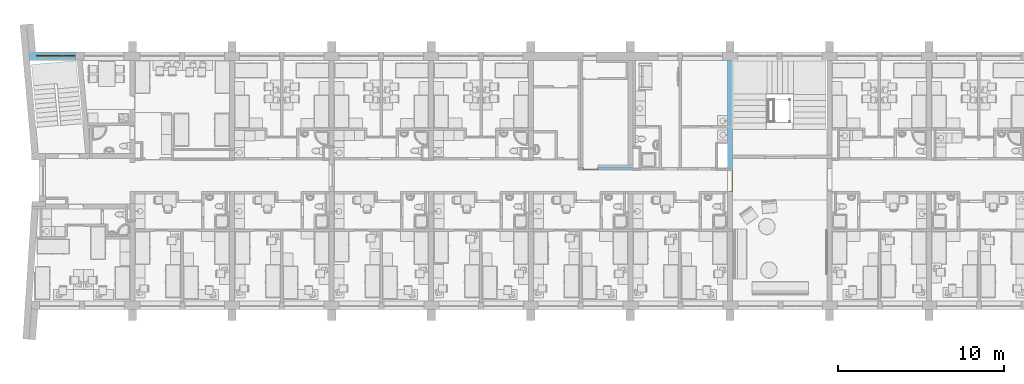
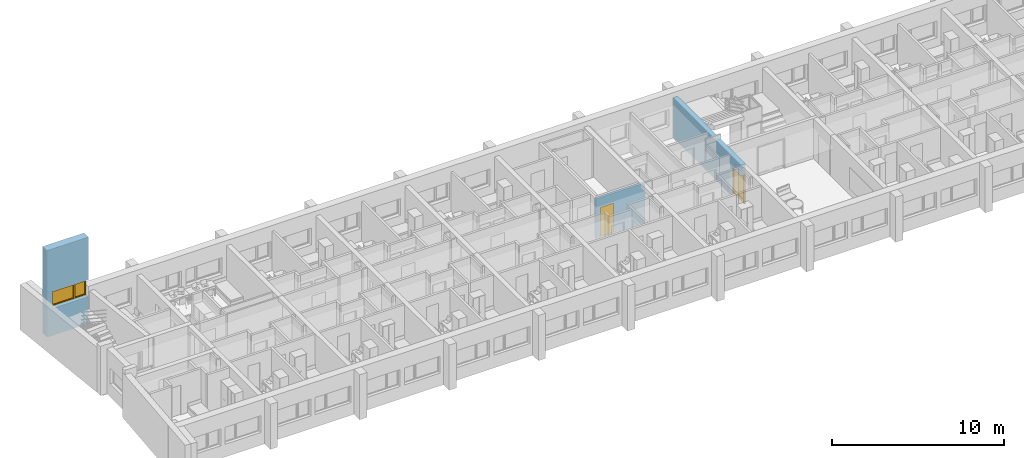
# One storey, part 23 of 165: 2 doors, 1 window, 3 openings, plus 3 elements that do not belong to this part.
"""IFC2X3 building model written with IfcOpenShell, lengths in millimetres."""

from ifc_helpers import new_model, entity, si_unit, converted_unit, money_unit, direction, frame, origin_with_axes, place, context, subcontext, project, spatial, polyline, outline, extrude, open_shell, faceted_brep, surface_model, material, material_list, layer, layer_set, layer_usage, type_object, element, fill, save


model = new_model("IFC2X3")

# Units and contexts
model_context = context("Model", 3, precision=1e-05, world=origin_with_axes(), true_north=direction((0.0, 1.0)))
body_context = subcontext(model_context, "Body", "Model", "MODEL_VIEW")
ifc_project = project(units=[si_unit("LENGTHUNIT", "METRE", prefix="MILLI"), si_unit("AREAUNIT", "SQUARE_METRE"), si_unit("VOLUMEUNIT", "CUBIC_METRE"), converted_unit("PLANEANGLEUNIT", "DEGREE", entity("IfcPlaneAngleMeasure", 0.0174532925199), si_unit("PLANEANGLEUNIT", "RADIAN"), dimensions=[0, 0, 0, 0, 0, 0, 0]), si_unit("SOLIDANGLEUNIT", "STERADIAN"), money_unit("USD"), converted_unit("TIMEUNIT", "Year", entity("IfcTimeMeasure", 31556926.0), si_unit("TIMEUNIT", "SECOND"), dimensions=[0, 0, 0, 0, 0, 0, 0]), si_unit("MASSUNIT", "GRAM"), si_unit("THERMODYNAMICTEMPERATUREUNIT", "DEGREE_CELSIUS"), si_unit("LUMINOUSINTENSITYUNIT", "LUMEN")], contexts=[model_context])

# Site, building, storey
site_placement = place(None, origin_with_axes())
site = spatial("IfcSite", under=ifc_project, at=site_placement, Name="Site", CompositionType="ELEMENT")
building_placement = place(site_placement, origin_with_axes())
building = spatial("IfcBuilding", under=site, at=building_placement, Name="Building", CompositionType="ELEMENT")
storey_placement = place(building_placement, frame((0.0, 0.0, 6300.0), z_axis=(0.0, 0.0, 1.0), x_axis=(1.0, 0.0, 0.0)))
storey = spatial("IfcBuildingStorey", under=building, at=storey_placement, Name="4KORRUS", CompositionType="ELEMENT", Elevation=6300.0)

# Wall, opening, window
ifc_material_1 = material(Name="Olemasolevad seinad tellis, uus viimistlus")
ifc_layer_1 = layer(ifc_material_1, 500.0, ventilated="UNKNOWN")
ifc_layer_set_1 = layer_set([ifc_layer_1], Name="Olemasolevad seinad tellis, uus viimistlus 500")
ifc_layer_usage_1 = layer_usage(ifc_layer_set_1, "AXIS2", "POSITIVE", -100.0)
wall_type_1 = type_object("IfcWallType", Name="Olemasolevad seinad tellis, uus viimistlus 500", PredefinedType="NOTDEFINED")
wall_1_placement = place(storey_placement, frame((-54343.0262419, -5039.6041088, 550.0), z_axis=(0.0, 0.0, 1.0), x_axis=(1.0, 0.0, 0.0)))
wall_1 = element("IfcWallStandardCase", 1, at=wall_1_placement, inside=storey, type_object=wall_type_1, material=ifc_layer_usage_1, Name="VS1", ObjectType="VS1", context=body_context, shape_type="SweptSolid", body=[
    extrude(outline(polyline([(0.0, -100.0), (2773.68742949, -100.0), (2773.68742949, 400.0), (0.0, 400.0), (0.0, -100.0)])), origin_with_axes(), (0.0, 0.0, 1.0), 6150.0),
])
opening_1_placement = place(wall_1_placement, frame((1573.68742949, 0.0, 1910.0), z_axis=(0.0, 0.0, 1.0), x_axis=(1.0, 0.0, 0.0)))
opening_1 = element("IfcOpeningElement", 2, at=opening_1_placement, cuts=wall_1, Name="A2", context=body_context, shape_type="SweptSolid", body=[
    extrude(outline(polyline([(-1200.0, 1200.0), (-1200.0, 0.0), (1200.0, 0.0), (1200.0, 1200.0), (-1200.0, 1200.0)])), frame((0.0, 200.0, 0.0), z_axis=(0.0, -1.0, 0.0), x_axis=(1.0, 0.0, 0.0)), (0.0, 0.0, 1.0), 800.0),
    extrude(outline(polyline([(-1200.0, 0.0), (-1200.0, -1200.0), (1200.0, -1200.0), (1200.0, 0.0), (-1200.0, 0.0)])), frame((0.0, 200.0, 0.0), z_axis=(0.0, 1.0, 0.0), x_axis=(1.0, 0.0, 0.0)), (0.0, 0.0, 1.0), 700.0),
])
ifc_material_2 = material(Name="Background")
ifc_material_list = material_list([ifc_material_2])
window_style = type_object("IfcWindowStyle", Name="Double Window 19", ConstructionType="NOTDEFINED", OperationType="DOUBLE_PANEL_VERTICAL", ParameterTakesPrecedence=False, Sizeable=False)
window_placement = place(opening_1_placement, frame((-1200.0, 0.0, 0.0), z_axis=(0.0, 0.0, 1.0), x_axis=(1.0, 0.0, 0.0)))
window = element("IfcWindow", 3, at=window_placement, inside=storey, type_object=window_style, material=ifc_material_list, Name="A2", ObjectType="A2", OverallHeight=1200.0, OverallWidth=2400.0, context=body_context, shape_type="SurfaceModel", body=[
    faceted_brep([(25.0, 200.0, 1150.0), (0.0, 200.0, 1150.0), (0.0, 150.0, 1150.0), (50.0, 150.0, 1150.0), (50.0, 175.0, 1150.0), (25.0, 175.0, 1150.0), (25.0, 200.0, 50.0), (0.0, 200.0, 50.0), (0.0, 150.0, 50.0), (50.0, 150.0, 50.0), (50.0, 175.0, 50.0), (25.0, 175.0, 50.0)], [[[0, 1, 2, 3, 4, 5]], [[6, 7, 1, 0]], [[1, 7, 8, 2]], [[2, 8, 9, 3]], [[4, 3, 9, 10]], [[10, 11, 5, 4]], [[5, 11, 6, 0]], [[11, 10, 9, 8, 7, 6]]]),
    faceted_brep([(2350.0, 175.0, 1150.0), (2350.0, 150.0, 1150.0), (2400.0, 150.0, 1150.0), (2400.0, 200.0, 1150.0), (2375.0, 200.0, 1150.0), (2375.0, 175.0, 1150.0), (2350.0, 175.0, 50.0), (2350.0, 150.0, 50.0), (2400.0, 150.0, 50.0), (2400.0, 200.0, 50.0), (2375.0, 200.0, 50.0), (2375.0, 175.0, 50.0)], [[[0, 1, 2, 3, 4, 5]], [[6, 7, 1, 0]], [[8, 2, 1, 7]], [[9, 3, 2, 8]], [[4, 3, 9, 10]], [[10, 11, 5, 4]], [[5, 11, 6, 0]], [[11, 10, 9, 8, 7, 6]]]),
    faceted_brep([(1550.0, 175.0, 1150.0), (1550.0, 150.0, 1150.0), (1650.0, 150.0, 1150.0), (1650.0, 175.0, 1150.0), (1625.0, 175.0, 1150.0), (1625.0, 200.0, 1150.0), (1575.0, 200.0, 1150.0), (1575.0, 175.0, 1150.0), (1550.0, 175.0, 50.0), (1550.0, 150.0, 50.0), (1650.0, 150.0, 50.0), (1650.0, 175.0, 50.0), (1625.0, 175.0, 50.0), (1625.0, 200.0, 50.0), (1575.0, 200.0, 50.0), (1575.0, 175.0, 50.0)], [[[0, 1, 2, 3, 4, 5, 6, 7]], [[8, 9, 1, 0]], [[10, 2, 1, 9]], [[3, 2, 10, 11]], [[11, 12, 4, 3]], [[4, 12, 13, 5]], [[6, 5, 13, 14]], [[14, 15, 7, 6]], [[7, 15, 8, 0]], [[15, 14, 13, 12, 11, 10, 9, 8]]]),
    faceted_brep([(1550.0, 175.0, 50.0), (1550.0, 150.0, 50.0), (1650.0, 150.0, 50.0), (1650.0, 175.0, 50.0), (1625.0, 175.0, 50.0), (1625.0, 200.0, 50.0), (1575.0, 200.0, 50.0), (1575.0, 175.0, 50.0), (50.0, 175.0, 50.0), (50.0, 150.0, 50.0), (0.0, 150.0, 50.0), (0.0, 150.0, 0.0), (2400.0, 150.0, 0.0), (2400.0, 150.0, 50.0), (2350.0, 150.0, 50.0), (2350.0, 175.0, 50.0), (2375.0, 175.0, 50.0), (2375.0, 175.0, 25.0), (1625.0, 175.0, 25.0), (1625.0, 200.0, 25.0), (25.0, 200.0, 25.0), (1575.0, 200.0, 25.0), (2375.0, 200.0, 25.0), (2375.0, 200.0, 50.0), (2400.0, 200.0, 50.0), (2400.0, 200.0, 0.0), (0.0, 200.0, 0.0), (0.0, 200.0, 50.0), (25.0, 200.0, 50.0), (1575.0, 175.0, 25.0), (25.0, 175.0, 25.0), (25.0, 175.0, 50.0)], [[[0, 1, 2, 3, 4, 5, 6, 7]], [[8, 9, 1, 0]], [[10, 11, 12, 13, 14, 2, 1, 9]], [[3, 2, 14, 15]], [[16, 17, 18, 4, 3, 15]], [[4, 18, 19, 5]], [[20, 21, 6, 5, 19, 22, 23, 24, 25, 26, 27, 28]], [[21, 29, 7, 6]], [[7, 29, 30, 31, 8, 0]], [[31, 28, 27, 10, 9, 8]], [[27, 26, 11, 10]], [[26, 25, 12, 11]], [[25, 24, 13, 12]], [[15, 14, 13, 24, 23, 16]], [[22, 17, 16, 23]], [[19, 18, 17, 22]], [[20, 30, 29, 21]], [[31, 30, 20, 28]]]),
    faceted_brep([(25.0, 200.0, 1150.0), (0.0, 200.0, 1150.0), (0.0, 200.0, 1200.0), (2400.0, 200.0, 1200.0), (2400.0, 200.0, 1150.0), (2375.0, 200.0, 1150.0), (2375.0, 200.0, 1175.0), (1625.0, 200.0, 1175.0), (1625.0, 200.0, 1150.0), (1575.0, 200.0, 1150.0), (1575.0, 200.0, 1175.0), (25.0, 200.0, 1175.0), (25.0, 175.0, 1150.0), (50.0, 175.0, 1150.0), (50.0, 150.0, 1150.0), (0.0, 150.0, 1150.0), (0.0, 150.0, 1200.0), (2400.0, 150.0, 1200.0), (2400.0, 150.0, 1150.0), (2375.0, 175.0, 1150.0), (2350.0, 150.0, 1150.0), (2350.0, 175.0, 1150.0), (2375.0, 175.0, 1175.0), (1625.0, 175.0, 1175.0), (1625.0, 175.0, 1150.0), (1575.0, 175.0, 1150.0), (1650.0, 175.0, 1150.0), (1650.0, 150.0, 1150.0), (1550.0, 150.0, 1150.0), (1550.0, 175.0, 1150.0), (1575.0, 175.0, 1175.0), (25.0, 175.0, 1175.0)], [[[0, 1, 2, 3, 4, 5, 6, 7, 8, 9, 10, 11]], [[12, 13, 14, 15, 1, 0]], [[2, 1, 15, 16]], [[3, 2, 16, 17]], [[4, 3, 17, 18]], [[19, 5, 4, 18, 20, 21]], [[5, 19, 22, 6]], [[6, 22, 23, 7]], [[7, 23, 24, 8]], [[25, 9, 8, 24, 26, 27, 28, 29]], [[9, 25, 30, 10]], [[10, 30, 31, 11]], [[11, 31, 12, 0]], [[29, 13, 12, 31, 30, 25]], [[29, 28, 14, 13]], [[27, 20, 18, 17, 16, 15, 14, 28]], [[21, 20, 27, 26]], [[21, 26, 24, 23, 22, 19]]]),
    faceted_brep([(75.0, 175.0, 1125.0), (75.0, 225.0, 1125.0), (25.0, 225.0, 1125.0), (25.0, 175.0, 1125.0), (75.0, 175.0, 75.0), (75.0, 225.0, 75.0), (25.0, 225.0, 75.0), (25.0, 175.0, 75.0)], [[[0, 1, 2, 3]], [[4, 5, 1, 0]], [[1, 5, 6, 2]], [[3, 2, 6, 7]], [[0, 3, 7, 4]], [[7, 6, 5, 4]]]),
    faceted_brep([(1525.0, 175.0, 75.0), (1525.0, 225.0, 75.0), (1575.0, 225.0, 75.0), (1575.0, 175.0, 75.0), (1525.0, 175.0, 1125.0), (1525.0, 225.0, 1125.0), (1575.0, 225.0, 1125.0), (1575.0, 175.0, 1125.0)], [[[0, 1, 2, 3]], [[4, 5, 1, 0]], [[1, 5, 6, 2]], [[3, 2, 6, 7]], [[0, 3, 7, 4]], [[7, 6, 5, 4]]]),
    faceted_brep([(1575.0, 175.0, 25.0), (1575.0, 225.0, 25.0), (1575.0, 225.0, 75.0), (1575.0, 175.0, 75.0), (25.0, 175.0, 25.0), (25.0, 225.0, 25.0), (25.0, 225.0, 75.0), (75.0, 225.0, 75.0), (1525.0, 225.0, 75.0), (1525.0, 175.0, 75.0), (75.0, 175.0, 75.0), (25.0, 175.0, 75.0)], [[[0, 1, 2, 3]], [[4, 5, 1, 0]], [[1, 5, 6, 7, 8, 2]], [[3, 2, 8, 9]], [[0, 3, 9, 10, 11, 4]], [[11, 6, 5, 4]], [[10, 7, 6, 11]], [[9, 8, 7, 10]]]),
    faceted_brep([(25.0, 175.0, 1175.0), (25.0, 225.0, 1175.0), (25.0, 225.0, 1125.0), (25.0, 175.0, 1125.0), (1575.0, 175.0, 1175.0), (1575.0, 225.0, 1175.0), (1575.0, 225.0, 1125.0), (1525.0, 225.0, 1125.0), (75.0, 225.0, 1125.0), (75.0, 175.0, 1125.0), (1525.0, 175.0, 1125.0), (1575.0, 175.0, 1125.0)], [[[0, 1, 2, 3]], [[4, 5, 1, 0]], [[1, 5, 6, 7, 8, 2]], [[3, 2, 8, 9]], [[0, 3, 9, 10, 11, 4]], [[11, 6, 5, 4]], [[10, 7, 6, 11]], [[9, 8, 7, 10]]]),
    surface_model("IfcShellBasedSurfaceModel", [(75.0, 190.0, 75.0), (1525.0, 190.0, 75.0), (1525.0, 190.0, 1125.0), (75.0, 190.0, 1125.0)], [open_shell([[[0, 1, 2, 3]]])]),
    surface_model("IfcShellBasedSurfaceModel", [(75.0, 210.0, 75.0), (75.0, 210.0, 1125.0), (1525.0, 210.0, 1125.0), (1525.0, 210.0, 75.0)], [open_shell([[[0, 1, 2, 3]]])]),
    faceted_brep([(1675.0, 175.0, 1125.0), (1675.0, 225.0, 1125.0), (1625.0, 225.0, 1125.0), (1625.0, 175.0, 1125.0), (1675.0, 175.0, 75.0), (1675.0, 225.0, 75.0), (1625.0, 225.0, 75.0), (1625.0, 175.0, 75.0)], [[[0, 1, 2, 3]], [[4, 5, 1, 0]], [[1, 5, 6, 2]], [[3, 2, 6, 7]], [[0, 3, 7, 4]], [[7, 6, 5, 4]]]),
    faceted_brep([(2325.0, 175.0, 75.0), (2325.0, 225.0, 75.0), (2375.0, 225.0, 75.0), (2375.0, 175.0, 75.0), (2325.0, 175.0, 1125.0), (2325.0, 225.0, 1125.0), (2375.0, 225.0, 1125.0), (2375.0, 175.0, 1125.0)], [[[0, 1, 2, 3]], [[4, 5, 1, 0]], [[1, 5, 6, 2]], [[3, 2, 6, 7]], [[0, 3, 7, 4]], [[7, 6, 5, 4]]]),
    faceted_brep([(2375.0, 175.0, 25.0), (2375.0, 225.0, 25.0), (2375.0, 225.0, 75.0), (2375.0, 175.0, 75.0), (1625.0, 175.0, 25.0), (1625.0, 225.0, 25.0), (1625.0, 225.0, 75.0), (1675.0, 225.0, 75.0), (2325.0, 225.0, 75.0), (2325.0, 175.0, 75.0), (1675.0, 175.0, 75.0), (1625.0, 175.0, 75.0)], [[[0, 1, 2, 3]], [[4, 5, 1, 0]], [[1, 5, 6, 7, 8, 2]], [[3, 2, 8, 9]], [[0, 3, 9, 10, 11, 4]], [[11, 6, 5, 4]], [[10, 7, 6, 11]], [[9, 8, 7, 10]]]),
    faceted_brep([(1625.0, 175.0, 1175.0), (1625.0, 225.0, 1175.0), (1625.0, 225.0, 1125.0), (1625.0, 175.0, 1125.0), (2375.0, 175.0, 1175.0), (2375.0, 225.0, 1175.0), (2375.0, 225.0, 1125.0), (2325.0, 225.0, 1125.0), (1675.0, 225.0, 1125.0), (1675.0, 175.0, 1125.0), (2325.0, 175.0, 1125.0), (2375.0, 175.0, 1125.0)], [[[0, 1, 2, 3]], [[4, 5, 1, 0]], [[1, 5, 6, 7, 8, 2]], [[3, 2, 8, 9]], [[0, 3, 9, 10, 11, 4]], [[11, 6, 5, 4]], [[10, 7, 6, 11]], [[9, 8, 7, 10]]]),
    surface_model("IfcShellBasedSurfaceModel", [(1675.0, 190.0, 75.0), (2325.0, 190.0, 75.0), (2325.0, 190.0, 1125.0), (1675.0, 190.0, 1125.0)], [open_shell([[[0, 1, 2, 3]]])]),
    surface_model("IfcShellBasedSurfaceModel", [(1675.0, 210.0, 75.0), (1675.0, 210.0, 1125.0), (2325.0, 210.0, 1125.0), (2325.0, 210.0, 75.0)], [open_shell([[[0, 1, 2, 3]]])]),
])
fill(opening_1, window)

# Wall, opening, door
ifc_material_3 = material(Name="UmbKipsplaat")
ifc_layer_2 = layer(ifc_material_3, 13.0, ventilated="UNKNOWN")
ifc_layer_3 = layer(ifc_material_3, 13.0, ventilated="UNKNOWN")
ifc_material_4 = material(Name="SOOJUSTUS MINERAALVILL")
ifc_layer_4 = layer(ifc_material_4, 98.0, ventilated="UNKNOWN")
ifc_layer_5 = layer(ifc_material_3, 13.0, ventilated="UNKNOWN")
ifc_layer_6 = layer(ifc_material_3, 13.0, ventilated="UNKNOWN")
ifc_layer_set_2 = layer_set([ifc_layer_2, ifc_layer_3, ifc_layer_4, ifc_layer_5, ifc_layer_6], Name="kipssein150")
ifc_layer_usage_2 = layer_usage(ifc_layer_set_2, "AXIS2", "POSITIVE", 0.0)
wall_type_2 = type_object("IfcWallType", Name="kipssein150 150", PredefinedType="NOTDEFINED")
wall_2_placement = place(storey_placement, frame((-21293.7997794, -11739.1092262, 0.0), z_axis=(0.0, 0.0, 1.0), x_axis=(1.0, 0.0, 0.0)))
wall_2 = element("IfcWallStandardCase", 4, at=wall_2_placement, inside=storey, type_object=wall_type_2, material=ifc_layer_usage_2, Name="SS1", ObjectType="SS1", context=body_context, shape_type="SweptSolid", body=[
    extrude(outline(polyline([(0.0, 0.0), (3303.5030761, 0.0), (3303.5030761, 150.0), (0.0, 150.0), (0.0, 0.0)])), origin_with_axes(), (0.0, 0.0, 1.0), 2800.0),
])
opening_2_placement = place(wall_2_placement, frame((750.0, 0.0, 0.0), z_axis=(0.0, 0.0, 1.0), x_axis=(1.0, 0.0, 0.0)))
opening_2 = element("IfcOpeningElement", 5, at=opening_2_placement, cuts=wall_2, Name="SU2-1", context=body_context, shape_type="SweptSolid", body=[
    extrude(outline(polyline([(-450.0, 0.0), (450.0, 0.0), (450.0, 2100.0), (-450.0, 2100.0), (-450.0, 0.0)])), frame((0.0, -150.0, 0.0), z_axis=(0.0, 1.0, 0.0), x_axis=(-1.0, 0.0, 0.0)), (0.0, 0.0, 1.0), 450.0),
])
door_style_1 = type_object("IfcDoorStyle", Name="Door 19", ConstructionType="NOTDEFINED", OperationType="SINGLE_SWING_RIGHT", ParameterTakesPrecedence=False, Sizeable=False)
door_1_placement = place(opening_2_placement, frame((450.0, 0.0, 0.0), z_axis=(0.0, 0.0, 1.0), x_axis=(-1.0, 0.0, 0.0)))
door_1 = element("IfcDoor", 6, at=door_1_placement, inside=storey, type_object=door_style_1, material=ifc_material_list, Name="SU2-1", ObjectType="Abiruumi uks", OverallHeight=2100.0, OverallWidth=900.0, context=body_context, shape_type="Brep", body=[
    faceted_brep([(40.0, -75.0, 0.0), (40.0, -75.0, 2060.0), (40.0, -150.0, 2060.0), (40.0, -150.0, 0.0), (28.0, -75.0, 2060.0), (28.0, -75.0, 0.0), (28.0, -35.0, 2060.0), (0.0, -35.0, 2060.0), (0.0, -150.0, 2060.0), (0.0, -150.0, 0.0), (0.0, -35.0, 0.0), (28.0, -35.0, 0.0)], [[[0, 1, 2, 3]], [[4, 1, 0, 5]], [[4, 6, 7, 8, 2, 1]], [[2, 8, 9, 3]], [[5, 0, 3, 9, 10, 11]], [[6, 4, 5, 11]], [[6, 11, 10, 7]], [[9, 8, 7, 10]]]),
    faceted_brep([(872.0, -75.0, 2060.0), (860.0, -75.0, 2060.0), (860.0, -150.0, 2060.0), (900.0, -150.0, 2060.0), (900.0, -35.0, 2060.0), (872.0, -35.0, 2060.0), (872.0, -75.0, 0.0), (860.0, -75.0, 0.0), (860.0, -150.0, 0.0), (900.0, -150.0, 0.0), (900.0, -35.0, 0.0), (872.0, -35.0, 0.0)], [[[0, 1, 2, 3, 4, 5]], [[1, 0, 6, 7]], [[1, 7, 8, 2]], [[2, 8, 9, 3]], [[3, 9, 10, 4]], [[11, 5, 4, 10]], [[0, 5, 11, 6]], [[6, 11, 10, 9, 8, 7]]]),
    faceted_brep([(28.0, -35.0, 2072.0), (28.0, -35.0, 2060.0), (0.0, -35.0, 2060.0), (0.0, -35.0, 2100.0), (900.0, -35.0, 2100.0), (900.0, -35.0, 2060.0), (872.0, -35.0, 2060.0), (872.0, -35.0, 2072.0), (28.0, -75.0, 2072.0), (28.0, -75.0, 2060.0), (40.0, -75.0, 2060.0), (40.0, -150.0, 2060.0), (0.0, -150.0, 2060.0), (0.0, -150.0, 2100.0), (900.0, -150.0, 2100.0), (900.0, -150.0, 2060.0), (872.0, -75.0, 2060.0), (860.0, -150.0, 2060.0), (860.0, -75.0, 2060.0), (872.0, -75.0, 2072.0)], [[[0, 1, 2, 3, 4, 5, 6, 7]], [[1, 0, 8, 9]], [[9, 10, 11, 12, 2, 1]], [[12, 13, 3, 2]], [[13, 14, 4, 3]], [[14, 15, 5, 4]], [[16, 6, 5, 15, 17, 18]], [[7, 6, 16, 19]], [[0, 7, 19, 8]], [[16, 18, 10, 9, 8, 19]], [[10, 18, 17, 11]], [[15, 14, 13, 12, 11, 17]]]),
    faceted_brep([(872.0, -35.0, 0.0), (872.0, -75.0, 0.0), (28.0, -75.0, 0.0), (28.0, -35.0, 0.0), (872.0, -35.0, 2072.0), (872.0, -75.0, 2072.0), (28.0, -75.0, 2072.0), (28.0, -35.0, 2072.0)], [[[0, 1, 2, 3]], [[4, 5, 1, 0]], [[1, 5, 6, 2]], [[3, 2, 6, 7]], [[0, 3, 7, 4]], [[7, 6, 5, 4]]]),
])
fill(opening_2, door_1)

ifc_material_5 = material(Name="Olemasolevad seinad tellis, uus viimistlus")
ifc_layer_7 = layer(ifc_material_5, 300.0, ventilated="UNKNOWN")
ifc_layer_set_3 = layer_set([ifc_layer_7], Name="Olemasolevad seinad tellis, uus viimistlus  300")
ifc_layer_usage_3 = layer_usage(ifc_layer_set_3, "AXIS2", "POSITIVE", 0.0)
wall_type_3 = type_object("IfcWallType", Name="Olemasolevad seinad tellis, uus viimistlus  300", PredefinedType="NOTDEFINED")
wall_3_placement = place(storey_placement, frame((-11990.2967033, -13039.2398994, 0.0), z_axis=(0.0, 0.0, 1.0), x_axis=(0.0, 1.0, 0.0)))
wall_3 = element("IfcWallStandardCase", 7, at=wall_3_placement, inside=storey, type_object=wall_type_3, material=ifc_layer_usage_3, Name="KS1", ObjectType="KS1", context=body_context, shape_type="SweptSolid", body=[
    extrude(outline(polyline([(0.0, 0.0), (7899.63579061, 0.0), (7899.63579061, 300.0), (0.0, 300.0), (0.0, 0.0)])), origin_with_axes(), (0.0, 0.0, 1.0), 2850.0),
])
opening_3_placement = place(wall_3_placement, frame((650.0, 0.0, 0.0), z_axis=(0.0, 0.0, 1.0), x_axis=(1.0, 0.0, 0.0)))
opening_3 = element("IfcOpeningElement", 8, at=opening_3_placement, cuts=wall_3, Name="SU4-22", context=body_context, shape_type="SweptSolid", body=[
    extrude(outline(polyline([(-650.0, -2100.0), (650.0, -2100.0), (650.0, 0.0), (-650.0, 0.0), (-650.0, -2100.0)])), frame((0.0, 300.0, 0.0), z_axis=(0.0, -1.0, 0.0), x_axis=(-1.0, 0.0, 0.0)), (0.0, 0.0, 1.0), 900.0),
])
door_style_2 = type_object("IfcDoorStyle", Name="Double Door Asymmetric 19", ConstructionType="NOTDEFINED", OperationType="DOUBLE_DOOR_SINGLE_SWING", ParameterTakesPrecedence=False, Sizeable=False)
door_2_placement = place(opening_3_placement, frame((650.0, 0.0, 0.0), z_axis=(0.0, 0.0, 1.0), x_axis=(-1.0, 0.0, 0.0)))
door_2 = element("IfcDoor", 9, at=door_2_placement, inside=storey, type_object=door_style_2, material=ifc_material_list, Name="SU4-22", ObjectType="Trepkoja uks", OverallHeight=2100.0, OverallWidth=1300.0, context=body_context, shape_type="SurfaceModel", body=[
    faceted_brep([(40.0, -40.0, 0.0), (40.0, -40.0, 2060.0), (40.0, -115.0, 2060.0), (40.0, -115.0, 0.0), (28.0, -40.0, 2060.0), (28.0, -40.0, 0.0), (28.0, 0.0, 2060.0), (0.0, 0.0, 2060.0), (0.0, -115.0, 2060.0), (0.0, -115.0, 0.0), (0.0, 0.0, 0.0), (28.0, 0.0, 0.0)], [[[0, 1, 2, 3]], [[4, 1, 0, 5]], [[4, 6, 7, 8, 2, 1]], [[2, 8, 9, 3]], [[5, 0, 3, 9, 10, 11]], [[6, 4, 5, 11]], [[6, 11, 10, 7]], [[9, 8, 7, 10]]]),
    faceted_brep([(1272.0, -40.0, 2060.0), (1260.0, -40.0, 2060.0), (1260.0, -115.0, 2060.0), (1300.0, -115.0, 2060.0), (1300.0, 0.0, 2060.0), (1272.0, 0.0, 2060.0), (1272.0, -40.0, 0.0), (1260.0, -40.0, 0.0), (1260.0, -115.0, 0.0), (1300.0, -115.0, 0.0), (1300.0, 0.0, 0.0), (1272.0, 0.0, 0.0)], [[[0, 1, 2, 3, 4, 5]], [[1, 0, 6, 7]], [[1, 7, 8, 2]], [[2, 8, 9, 3]], [[3, 9, 10, 4]], [[11, 5, 4, 10]], [[0, 5, 11, 6]], [[6, 11, 10, 9, 8, 7]]]),
    faceted_brep([(28.0, 0.0, 2072.0), (28.0, 0.0, 2060.0), (0.0, 0.0, 2060.0), (0.0, 0.0, 2100.0), (1300.0, 0.0, 2100.0), (1300.0, 0.0, 2060.0), (1272.0, 0.0, 2060.0), (1272.0, 0.0, 2072.0), (28.0, -40.0, 2072.0), (28.0, -40.0, 2060.0), (40.0, -40.0, 2060.0), (40.0, -115.0, 2060.0), (0.0, -115.0, 2060.0), (0.0, -115.0, 2100.0), (1300.0, -115.0, 2100.0), (1300.0, -115.0, 2060.0), (1272.0, -40.0, 2060.0), (1260.0, -115.0, 2060.0), (1260.0, -40.0, 2060.0), (1272.0, -40.0, 2072.0)], [[[0, 1, 2, 3, 4, 5, 6, 7]], [[1, 0, 8, 9]], [[9, 10, 11, 12, 2, 1]], [[12, 13, 3, 2]], [[13, 14, 4, 3]], [[14, 15, 5, 4]], [[16, 6, 5, 15, 17, 18]], [[7, 6, 16, 19]], [[0, 7, 19, 8]], [[16, 18, 10, 9, 8, 19]], [[10, 18, 17, 11]], [[15, 14, 13, 12, 11, 17]]]),
    faceted_brep([(1272.0, 0.0, 200.0), (1272.0, -40.0, 200.0), (1172.0, -40.0, 200.0), (1172.0, 0.0, 200.0), (1272.0, 0.0, 1972.0), (1272.0, -40.0, 1972.0), (1172.0, -40.0, 1972.0), (1172.0, 0.0, 1972.0)], [[[0, 1, 2, 3]], [[4, 5, 1, 0]], [[1, 5, 6, 2]], [[3, 2, 6, 7]], [[0, 3, 7, 4]], [[7, 6, 5, 4]]]),
    faceted_brep([(372.0, 0.0, 200.0), (372.0, -40.0, 200.0), (372.0, -40.0, 1972.0), (372.0, 0.0, 1972.0), (472.0, 0.0, 200.0), (472.0, -40.0, 200.0), (472.0, -40.0, 1972.0), (472.0, 0.0, 1972.0)], [[[0, 1, 2, 3]], [[4, 5, 1, 0]], [[1, 5, 6, 2]], [[3, 2, 6, 7]], [[0, 3, 7, 4]], [[7, 6, 5, 4]]]),
    faceted_brep([(1272.0, 0.0, 0.0), (1272.0, -40.0, 0.0), (372.0, -40.0, 0.0), (372.0, 0.0, 0.0), (1272.0, 0.0, 200.0), (1272.0, -40.0, 200.0), (1172.0, -40.0, 200.0), (472.0, -40.0, 200.0), (372.0, -40.0, 200.0), (372.0, 0.0, 200.0), (472.0, 0.0, 200.0), (1172.0, 0.0, 200.0)], [[[0, 1, 2, 3]], [[4, 5, 1, 0]], [[1, 5, 6, 7, 8, 2]], [[3, 2, 8, 9]], [[0, 3, 9, 10, 11, 4]], [[11, 6, 5, 4]], [[10, 7, 6, 11]], [[9, 8, 7, 10]]]),
    faceted_brep([(1272.0, 0.0, 2072.0), (1272.0, -40.0, 2072.0), (1272.0, -40.0, 1972.0), (1272.0, 0.0, 1972.0), (372.0, 0.0, 2072.0), (372.0, -40.0, 2072.0), (372.0, -40.0, 1972.0), (472.0, -40.0, 1972.0), (1172.0, -40.0, 1972.0), (1172.0, 0.0, 1972.0), (472.0, 0.0, 1972.0), (372.0, 0.0, 1972.0)], [[[0, 1, 2, 3]], [[4, 5, 1, 0]], [[1, 5, 6, 7, 8, 2]], [[3, 2, 8, 9]], [[0, 3, 9, 10, 11, 4]], [[11, 6, 5, 4]], [[10, 7, 6, 11]], [[9, 8, 7, 10]]]),
    surface_model("IfcShellBasedSurfaceModel", [(1172.0, -14.0, 200.0), (472.0, -14.0, 200.0), (472.0, -14.0, 1972.0), (1172.0, -14.0, 1972.0)], [open_shell([[[0, 1, 2, 3]]])]),
    surface_model("IfcShellBasedSurfaceModel", [(1172.0, -26.0, 200.0), (1172.0, -26.0, 1972.0), (472.0, -26.0, 1972.0), (472.0, -26.0, 200.0)], [open_shell([[[0, 1, 2, 3]]])]),
    faceted_brep([(28.0, 0.0, 200.0), (128.0, 0.0, 200.0), (128.0, -40.0, 200.0), (28.0, -40.0, 200.0), (28.0, 0.0, 1972.0), (128.0, 0.0, 1972.0), (128.0, -40.0, 1972.0), (28.0, -40.0, 1972.0)], [[[0, 1, 2, 3]], [[0, 4, 5, 1]], [[1, 5, 6, 2]], [[3, 2, 6, 7]], [[4, 0, 3, 7]], [[5, 4, 7, 6]]]),
    faceted_brep([(372.0, 0.0, 200.0), (372.0, 0.0, 1972.0), (372.0, -40.0, 1972.0), (372.0, -40.0, 200.0), (272.0, 0.0, 200.0), (272.0, 0.0, 1972.0), (272.0, -40.0, 1972.0), (272.0, -40.0, 200.0)], [[[0, 1, 2, 3]], [[0, 4, 5, 1]], [[1, 5, 6, 2]], [[3, 2, 6, 7]], [[4, 0, 3, 7]], [[5, 4, 7, 6]]]),
    faceted_brep([(28.0, 0.0, 0.0), (372.0, 0.0, 0.0), (372.0, -40.0, 0.0), (28.0, -40.0, 0.0), (28.0, 0.0, 200.0), (128.0, 0.0, 200.0), (272.0, 0.0, 200.0), (372.0, 0.0, 200.0), (372.0, -40.0, 200.0), (272.0, -40.0, 200.0), (128.0, -40.0, 200.0), (28.0, -40.0, 200.0)], [[[0, 1, 2, 3]], [[0, 4, 5, 6, 7, 1]], [[1, 7, 8, 2]], [[3, 2, 8, 9, 10, 11]], [[4, 0, 3, 11]], [[5, 4, 11, 10]], [[6, 5, 10, 9]], [[7, 6, 9, 8]]]),
    faceted_brep([(28.0, 0.0, 2072.0), (28.0, 0.0, 1972.0), (28.0, -40.0, 1972.0), (28.0, -40.0, 2072.0), (372.0, 0.0, 2072.0), (372.0, 0.0, 1972.0), (272.0, 0.0, 1972.0), (128.0, 0.0, 1972.0), (128.0, -40.0, 1972.0), (272.0, -40.0, 1972.0), (372.0, -40.0, 1972.0), (372.0, -40.0, 2072.0)], [[[0, 1, 2, 3]], [[0, 4, 5, 6, 7, 1]], [[1, 7, 8, 2]], [[3, 2, 8, 9, 10, 11]], [[4, 0, 3, 11]], [[5, 4, 11, 10]], [[6, 5, 10, 9]], [[7, 6, 9, 8]]]),
    surface_model("IfcShellBasedSurfaceModel", [(128.0, -14.0, 200.0), (128.0, -14.0, 1972.0), (272.0, -14.0, 1972.0), (272.0, -14.0, 200.0)], [open_shell([[[0, 1, 2, 3]]])]),
    surface_model("IfcShellBasedSurfaceModel", [(128.0, -26.0, 200.0), (272.0, -26.0, 200.0), (272.0, -26.0, 1972.0), (128.0, -26.0, 1972.0)], [open_shell([[[0, 1, 2, 3]]])]),
])
fill(opening_3, door_2)

save(model, "model.ifc")
